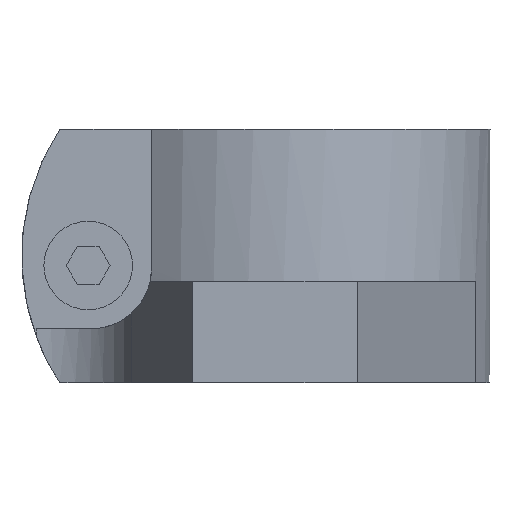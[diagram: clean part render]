
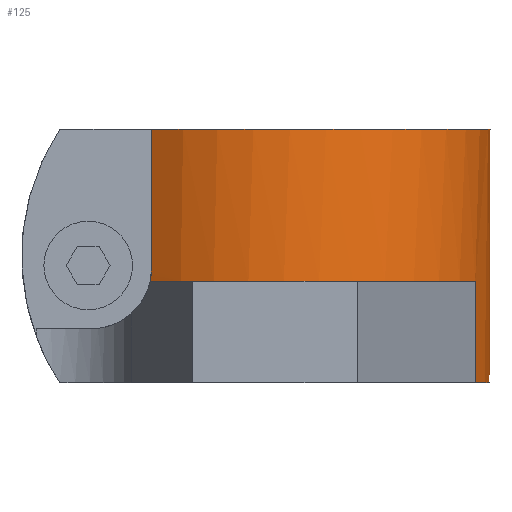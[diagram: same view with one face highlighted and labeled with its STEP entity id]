
A CAD part, left-side view. The second image highlights one B-rep face of the part: STEP entity #125.
In plain terms, the highlighted cylindrical face has radius 17 mm (diameter 34 mm), a partial arc.
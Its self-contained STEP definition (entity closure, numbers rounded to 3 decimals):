
#125=ADVANCED_FACE('',(#172),#173,.T.);
#172=FACE_OUTER_BOUND('',#275,.T.);
#173=CYLINDRICAL_SURFACE('',#276,17.0);
#275=EDGE_LOOP('',(#390,#391,#392,#393,#394,#395,#396,#397,#398));
#276=AXIS2_PLACEMENT_3D('',#399,#400,#401);
#390=ORIENTED_EDGE('',*,*,#718,.T.);
#391=ORIENTED_EDGE('',*,*,#719,.T.);
#392=ORIENTED_EDGE('',*,*,#720,.F.);
#393=ORIENTED_EDGE('',*,*,#716,.F.);
#394=ORIENTED_EDGE('',*,*,#721,.T.);
#395=ORIENTED_EDGE('',*,*,#722,.T.);
#396=ORIENTED_EDGE('',*,*,#723,.T.);
#397=ORIENTED_EDGE('',*,*,#724,.F.);
#398=ORIENTED_EDGE('',*,*,#725,.F.);
#399=CARTESIAN_POINT('',(0.0,0.0,12.0));
#400=DIRECTION('',(-0.0,-0.0,1.0));
#401=DIRECTION('',(0.786,0.619,0.0));
#716=EDGE_CURVE('',#825,#827,#828,.T.);
#718=EDGE_CURVE('',#830,#831,#832,.T.);
#719=EDGE_CURVE('',#831,#833,#834,.T.);
#720=EDGE_CURVE('',#827,#833,#835,.T.);
#721=EDGE_CURVE('',#825,#836,#837,.T.);
#722=EDGE_CURVE('',#836,#838,#839,.T.);
#723=EDGE_CURVE('',#838,#840,#841,.T.);
#724=EDGE_CURVE('',#842,#840,#843,.T.);
#725=EDGE_CURVE('',#830,#842,#844,.T.);
#825=VERTEX_POINT('',#1030);
#827=VERTEX_POINT('',#1032);
#828=LINE('',#1033,#1034);
#830=VERTEX_POINT('',#1036);
#831=VERTEX_POINT('',#1037);
#832=CIRCLE('',#1038,17.0);
#833=VERTEX_POINT('',#1039);
#834=LINE('',#1040,#1041);
#835=CIRCLE('',#1042,17.0);
#836=VERTEX_POINT('',#1043);
#837=CIRCLE('',#1044,17.0);
#838=VERTEX_POINT('',#1045);
#839=LINE('',#1046,#1047);
#840=VERTEX_POINT('',#1048);
#841=B_SPLINE_CURVE_WITH_KNOTS('',3,(#1049,#1050,#1051,#1052),.UNSPECIFIED.,.F.,.F.,(4,4),(0.0,0.001),.UNSPECIFIED.);
#842=VERTEX_POINT('',#1053);
#843=CIRCLE('',#1054,17.0);
#844=LINE('',#1055,#1056);
#1030=CARTESIAN_POINT('',(13.357,10.516,12.0));
#1032=CARTESIAN_POINT('',(13.357,10.516,0.0));
#1033=CARTESIAN_POINT('',(13.357,10.516,12.0));
#1034=VECTOR('',#1316,1.0);
#1036=CARTESIAN_POINT('',(-6.204,-15.828,-8.0));
#1037=CARTESIAN_POINT('',(6.204,-15.828,-8.0));
#1038=AXIS2_PLACEMENT_3D('',#1320,#1321,#1322);
#1039=CARTESIAN_POINT('',(6.204,-15.828,0.0));
#1040=CARTESIAN_POINT('',(6.204,-15.828,-8.0));
#1041=VECTOR('',#1323,1.0);
#1042=AXIS2_PLACEMENT_3D('',#1324,#1325,#1326);
#1043=CARTESIAN_POINT('',(-13.926,9.75,12.0));
#1044=AXIS2_PLACEMENT_3D('',#1327,#1328,#1329);
#1045=CARTESIAN_POINT('',(-13.926,9.75,1.0));
#1046=CARTESIAN_POINT('',(-13.926,9.75,12.0));
#1047=VECTOR('',#1330,1.0);
#1048=CARTESIAN_POINT('',(-13.851,9.856,0.0));
#1049=CARTESIAN_POINT('',(-13.926,9.75,1.0));
#1050=CARTESIAN_POINT('',(-13.926,9.75,0.661));
#1051=CARTESIAN_POINT('',(-13.901,9.786,0.328));
#1052=CARTESIAN_POINT('',(-13.851,9.856,0.));
#1053=CARTESIAN_POINT('',(-6.204,-15.828,0.0));
#1054=AXIS2_PLACEMENT_3D('',#1331,#1332,#1333);
#1055=CARTESIAN_POINT('',(-6.204,-15.828,-8.0));
#1056=VECTOR('',#1334,1.0);
#1316=DIRECTION('',(0.0,0.0,-1.0));
#1320=CARTESIAN_POINT('',(0.0,0.0,-8.0));
#1321=DIRECTION('',(0.0,0.0,1.0));
#1322=DIRECTION('',(1.0,0.0,0.0));
#1323=DIRECTION('',(0.0,0.0,1.0));
#1324=CARTESIAN_POINT('',(0.0,0.0,0.0));
#1325=DIRECTION('',(0.0,0.0,-1.0));
#1326=DIRECTION('',(1.0,0.0,0.0));
#1327=CARTESIAN_POINT('',(0.0,0.0,12.0));
#1328=DIRECTION('',(0.0,0.0,-1.0));
#1329=DIRECTION('',(1.0,0.0,0.0));
#1330=DIRECTION('',(0.0,0.0,-1.0));
#1331=CARTESIAN_POINT('',(0.0,0.0,0.0));
#1332=DIRECTION('',(0.0,0.0,-1.0));
#1333=DIRECTION('',(1.0,0.0,0.0));
#1334=DIRECTION('',(0.0,0.0,1.0));
